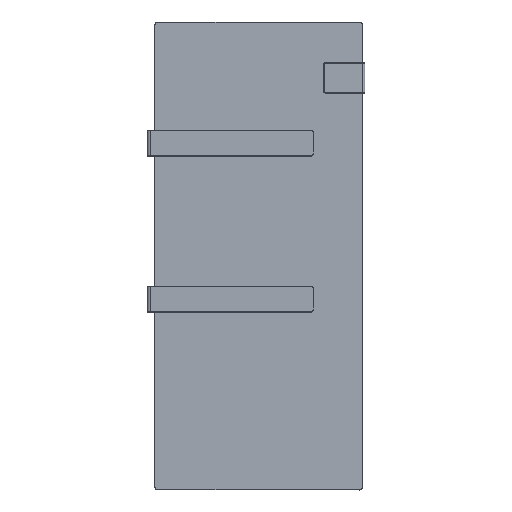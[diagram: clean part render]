
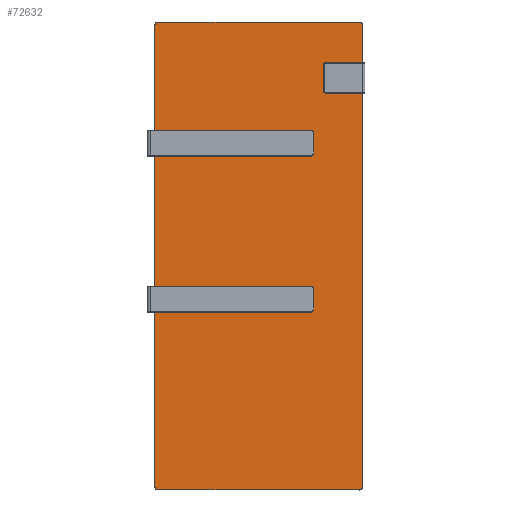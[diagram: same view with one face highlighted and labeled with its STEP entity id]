
A CAD part, top view. The second image highlights one B-rep face of the part: STEP entity #72632.
In plain terms, the highlighted planar face has unit normal (0, 0, 1).
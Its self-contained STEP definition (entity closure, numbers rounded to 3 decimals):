
#72605 = EDGE_CURVE('',#72606,#72608,#72610,.T.);
#72606 = VERTEX_POINT('',#72607);
#72607 = CARTESIAN_POINT('',(-199.5,444.,4.));
#72608 = VERTEX_POINT('',#72609);
#72609 = CARTESIAN_POINT('',(-199.5,-444.,4.));
#72610 = LINE('',#72611,#72612);
#72611 = CARTESIAN_POINT('',(-199.5,444.,
    4.));
#72612 = VECTOR('',#72613,1.);
#72613 = DIRECTION('',(0.,-1.,0.));
#72632 = ADVANCED_FACE('',(#72633),#72762,.T.);
#72633 = FACE_BOUND('',#72634,.F.);
#72634 = EDGE_LOOP('',(#72635,#72644,#72645,#72654,#72662,#72671,#72679,
    #72688,#72696,#72705,#72713,#72722,#72730,#72739,#72747,#72756));
#72635 = ORIENTED_EDGE('',*,*,#72636,.F.);
#72636 = EDGE_CURVE('',#72608,#72637,#72639,.T.);
#72637 = VERTEX_POINT('',#72638);
#72638 = CARTESIAN_POINT('',(-194.,-449.5,4.));
#72639 = CIRCLE('',#72640,5.5);
#72640 = AXIS2_PLACEMENT_3D('',#72641,#72642,#72643);
#72641 = CARTESIAN_POINT('',(-194.,-444.,4.));
#72642 = DIRECTION('',(0.,0.,1.));
#72643 = DIRECTION('',(-1.,0.,0.));
#72644 = ORIENTED_EDGE('',*,*,#72605,.F.);
#72645 = ORIENTED_EDGE('',*,*,#72646,.F.);
#72646 = EDGE_CURVE('',#72647,#72606,#72649,.T.);
#72647 = VERTEX_POINT('',#72648);
#72648 = CARTESIAN_POINT('',(-194.,449.5,
    4.));
#72649 = CIRCLE('',#72650,5.5);
#72650 = AXIS2_PLACEMENT_3D('',#72651,#72652,#72653);
#72651 = CARTESIAN_POINT('',(-194.,444.,4.));
#72652 = DIRECTION('',(0.,-0.,1.));
#72653 = DIRECTION('',(0.,1.,0.));
#72654 = ORIENTED_EDGE('',*,*,#72655,.F.);
#72655 = EDGE_CURVE('',#72656,#72647,#72658,.T.);
#72656 = VERTEX_POINT('',#72657);
#72657 = CARTESIAN_POINT('',(194.,449.5,4.));
#72658 = LINE('',#72659,#72660);
#72659 = CARTESIAN_POINT('',(194.,449.5,4.
    ));
#72660 = VECTOR('',#72661,1.);
#72661 = DIRECTION('',(-1.,0.,0.));
#72662 = ORIENTED_EDGE('',*,*,#72663,.F.);
#72663 = EDGE_CURVE('',#72664,#72656,#72666,.T.);
#72664 = VERTEX_POINT('',#72665);
#72665 = CARTESIAN_POINT('',(199.5,444.,
    4.));
#72666 = CIRCLE('',#72667,5.5);
#72667 = AXIS2_PLACEMENT_3D('',#72668,#72669,#72670);
#72668 = CARTESIAN_POINT('',(194.,444.,4.));
#72669 = DIRECTION('',(0.,0.,1.));
#72670 = DIRECTION('',(1.,0.,-0.));
#72671 = ORIENTED_EDGE('',*,*,#72672,.F.);
#72672 = EDGE_CURVE('',#72673,#72664,#72675,.T.);
#72673 = VERTEX_POINT('',#72674);
#72674 = CARTESIAN_POINT('',(199.5,371.5,4.));
#72675 = LINE('',#72676,#72677);
#72676 = CARTESIAN_POINT('',(199.5,371.5,
    4.));
#72677 = VECTOR('',#72678,1.);
#72678 = DIRECTION('',(0.,1.,0.));
#72679 = ORIENTED_EDGE('',*,*,#72680,.F.);
#72680 = EDGE_CURVE('',#72681,#72673,#72683,.T.);
#72681 = VERTEX_POINT('',#72682);
#72682 = CARTESIAN_POINT('',(199.,371.,4.
    ));
#72683 = CIRCLE('',#72684,0.5);
#72684 = AXIS2_PLACEMENT_3D('',#72685,#72686,#72687);
#72685 = CARTESIAN_POINT('',(199.,371.5,4.));
#72686 = DIRECTION('',(0.,0.,1.));
#72687 = DIRECTION('',(0.,-1.,0.));
#72688 = ORIENTED_EDGE('',*,*,#72689,.F.);
#72689 = EDGE_CURVE('',#72690,#72681,#72692,.T.);
#72690 = VERTEX_POINT('',#72691);
#72691 = CARTESIAN_POINT('',(132.25,371.,4.));
#72692 = LINE('',#72693,#72694);
#72693 = CARTESIAN_POINT('',(132.25,371.,
    4.));
#72694 = VECTOR('',#72695,1.);
#72695 = DIRECTION('',(1.,0.,0.));
#72696 = ORIENTED_EDGE('',*,*,#72697,.F.);
#72697 = EDGE_CURVE('',#72698,#72690,#72700,.T.);
#72698 = VERTEX_POINT('',#72699);
#72699 = CARTESIAN_POINT('',(126.75,365.5,
    4.));
#72700 = CIRCLE('',#72701,5.5);
#72701 = AXIS2_PLACEMENT_3D('',#72702,#72703,#72704);
#72702 = CARTESIAN_POINT('',(132.25,365.5,4.));
#72703 = DIRECTION('',(0.,0.,-1.));
#72704 = DIRECTION('',(-1.,0.,0.));
#72705 = ORIENTED_EDGE('',*,*,#72706,.F.);
#72706 = EDGE_CURVE('',#72707,#72698,#72709,.T.);
#72707 = VERTEX_POINT('',#72708);
#72708 = CARTESIAN_POINT('',(126.75,319.,4.));
#72709 = LINE('',#72710,#72711);
#72710 = CARTESIAN_POINT('',(126.75,319.,
    4.));
#72711 = VECTOR('',#72712,1.);
#72712 = DIRECTION('',(0.,1.,0.));
#72713 = ORIENTED_EDGE('',*,*,#72714,.F.);
#72714 = EDGE_CURVE('',#72715,#72707,#72717,.T.);
#72715 = VERTEX_POINT('',#72716);
#72716 = CARTESIAN_POINT('',(132.25,313.5,
    4.));
#72717 = CIRCLE('',#72718,5.5);
#72718 = AXIS2_PLACEMENT_3D('',#72719,#72720,#72721);
#72719 = CARTESIAN_POINT('',(132.25,319.,4.));
#72720 = DIRECTION('',(0.,0.,-1.));
#72721 = DIRECTION('',(0.,-1.,0.));
#72722 = ORIENTED_EDGE('',*,*,#72723,.F.);
#72723 = EDGE_CURVE('',#72724,#72715,#72726,.T.);
#72724 = VERTEX_POINT('',#72725);
#72725 = CARTESIAN_POINT('',(199.,313.5,4.));
#72726 = LINE('',#72727,#72728);
#72727 = CARTESIAN_POINT('',(199.,313.5,4.
    ));
#72728 = VECTOR('',#72729,1.);
#72729 = DIRECTION('',(-1.,0.,0.));
#72730 = ORIENTED_EDGE('',*,*,#72731,.F.);
#72731 = EDGE_CURVE('',#72732,#72724,#72734,.T.);
#72732 = VERTEX_POINT('',#72733);
#72733 = CARTESIAN_POINT('',(199.5,313.,
    4.));
#72734 = CIRCLE('',#72735,0.5);
#72735 = AXIS2_PLACEMENT_3D('',#72736,#72737,#72738);
#72736 = CARTESIAN_POINT('',(199.,313.,4.));
#72737 = DIRECTION('',(0.,0.,1.));
#72738 = DIRECTION('',(1.,0.,-0.));
#72739 = ORIENTED_EDGE('',*,*,#72740,.F.);
#72740 = EDGE_CURVE('',#72741,#72732,#72743,.T.);
#72741 = VERTEX_POINT('',#72742);
#72742 = CARTESIAN_POINT('',(199.5,-444.,4.));
#72743 = LINE('',#72744,#72745);
#72744 = CARTESIAN_POINT('',(199.5,-444.,
    4.));
#72745 = VECTOR('',#72746,1.);
#72746 = DIRECTION('',(0.,1.,0.));
#72747 = ORIENTED_EDGE('',*,*,#72748,.F.);
#72748 = EDGE_CURVE('',#72749,#72741,#72751,.T.);
#72749 = VERTEX_POINT('',#72750);
#72750 = CARTESIAN_POINT('',(194.,-449.5,
    4.));
#72751 = CIRCLE('',#72752,5.5);
#72752 = AXIS2_PLACEMENT_3D('',#72753,#72754,#72755);
#72753 = CARTESIAN_POINT('',(194.,-444.,4.));
#72754 = DIRECTION('',(0.,0.,1.));
#72755 = DIRECTION('',(0.,-1.,0.));
#72756 = ORIENTED_EDGE('',*,*,#72757,.F.);
#72757 = EDGE_CURVE('',#72637,#72749,#72758,.T.);
#72758 = LINE('',#72759,#72760);
#72759 = CARTESIAN_POINT('',(-194.,-449.5,
    4.));
#72760 = VECTOR('',#72761,1.);
#72761 = DIRECTION('',(1.,0.,0.));
#72762 = PLANE('',#72763);
#72763 = AXIS2_PLACEMENT_3D('',#72764,#72765,#72766);
#72764 = CARTESIAN_POINT('',(0.,0.,4.));
#72765 = DIRECTION('',(0.,0.,1.));
#72766 = DIRECTION('',(1.,0.,-0.));
